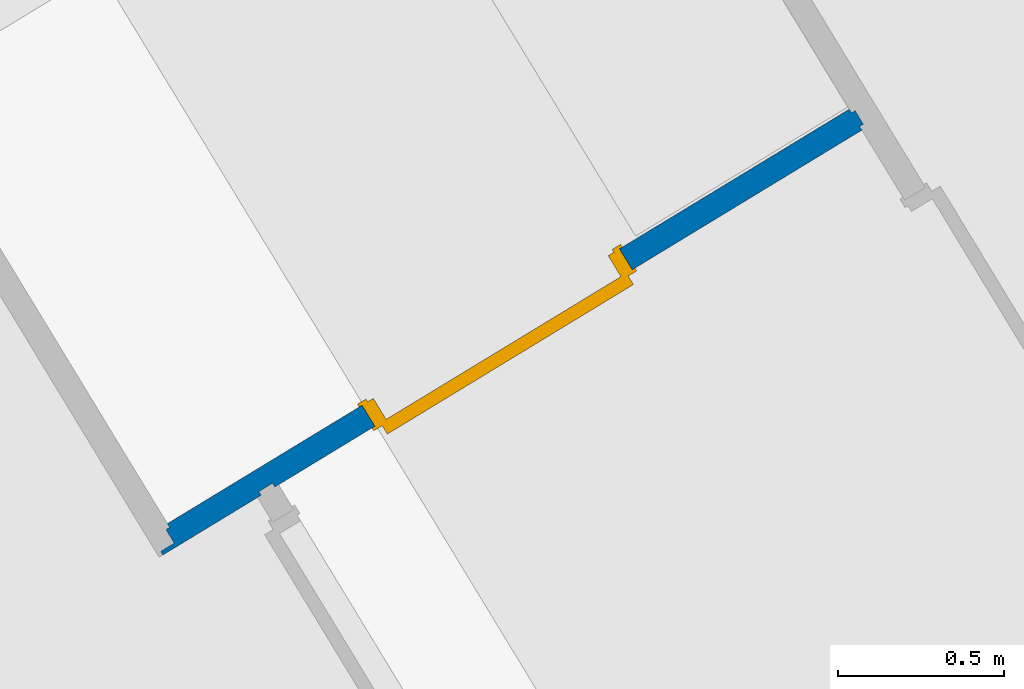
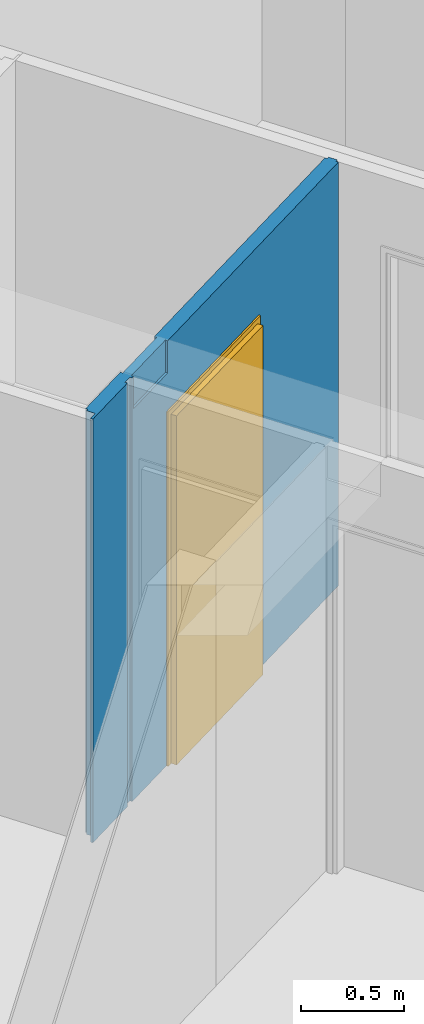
# One storey, part 36 of 90: 1 door, 1 wall, 1 opening.
"""IFC2X3 building model written with IfcOpenShell, lengths in metres."""

from ifc_helpers import new_model, entity, si_unit, converted_unit, derived_unit, money_unit, direction, frame, origin_with_axes, place, context, subcontext, project, spatial, faceted_brep, source, transform, mapped, material, material_list, type_object, element, fill, save


model = new_model("IFC2X3")

# Units and contexts
model_context = context("Model", 3, precision=1e-05, world=origin_with_axes(), true_north=direction((0.0, 1.0)))
body_context = subcontext(model_context, "Body", "Model", "MODEL_VIEW")
ifc_project = project(units=[si_unit("LENGTHUNIT", "METRE"), si_unit("AREAUNIT", "SQUARE_METRE"), si_unit("VOLUMEUNIT", "CUBIC_METRE"), converted_unit("PLANEANGLEUNIT", "DEGREE", entity("IfcPlaneAngleMeasure", 0.0174532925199), si_unit("PLANEANGLEUNIT", "RADIAN"), dimensions=[0, 0, 0, 0, 0, 0, 0]), si_unit("SOLIDANGLEUNIT", "STERADIAN"), money_unit("EUR"), converted_unit("TIMEUNIT", "Year", entity("IfcTimeMeasure", 31556926.0), si_unit("TIMEUNIT", "SECOND"), dimensions=[0, 0, 1, 0, 0, 0, 0]), si_unit("MASSUNIT", "GRAM", prefix="KILO"), si_unit("THERMODYNAMICTEMPERATUREUNIT", "DEGREE_CELSIUS"), si_unit("LUMINOUSINTENSITYUNIT", "LUMEN"), si_unit("ENERGYUNIT", "JOULE", prefix="MEGA"), derived_unit("THERMALCONDUCTANCEUNIT", [(si_unit("POWERUNIT", "WATT"), 1), (si_unit("LENGTHUNIT", "METRE"), -1), (si_unit("THERMODYNAMICTEMPERATUREUNIT", "KELVIN"), -1)]), derived_unit("SPECIFICHEATCAPACITYUNIT", [(si_unit("ENERGYUNIT", "JOULE"), 1), (si_unit("MASSUNIT", "GRAM", prefix="KILO"), -1), (si_unit("THERMODYNAMICTEMPERATUREUNIT", "KELVIN"), -1)]), derived_unit("MASSDENSITYUNIT", [(si_unit("MASSUNIT", "GRAM", prefix="KILO"), 1), (si_unit("VOLUMEUNIT", "CUBIC_METRE"), -1)])], contexts=[model_context])

# Site, building, storey
site_placement = place(None, origin_with_axes())
site = spatial("IfcSite", under=ifc_project, at=site_placement, Name="Site", CompositionType="ELEMENT")
building_placement = place(site_placement, origin_with_axes())
building = spatial("IfcBuilding", under=site, at=building_placement, Name="Bâtiment", CompositionType="ELEMENT")
storey_placement = place(building_placement, frame((0.0, 0.0, 2.72), z_axis=(0.0, 0.0, 1.0), x_axis=(1.0, 0.0, 0.0)))
storey = spatial("IfcBuildingStorey", under=building, at=storey_placement, Name="R+1", CompositionType="ELEMENT", Elevation=2.72)

# Wall, opening, door
ifc_material_1 = material(Name="Finition int - Plaque de plâtre")
ifc_material_2 = material(Name="Isolation - Laine de roche")
ifc_material_list = material_list([ifc_material_1, ifc_material_2, ifc_material_1])
wall_type = type_object("IfcWallType", Name="3 - Cloison 72mm Placostil 74", PredefinedType="USERDEFINED")
wall_placement = place(storey_placement, frame((-1.36651903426, 22.0117415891, 0.0), z_axis=(0.0, 0.0, 1.0), x_axis=(-0.854539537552, -0.519386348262, 0.0)))
wall = element("IfcWall", 1, at=wall_placement, inside=storey, type_object=wall_type, material=ifc_material_list, Name="Cloison Placostil 72/48", ObjectType="PARTITIONING", context=body_context, shape_type="Brep", body=[
    faceted_brep([(1.72212721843, 0.0, 0.0), (1.72212721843, -5.97531695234e-08, 2.08), (0.812127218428, -5.97531695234e-08, 2.08), (0.812127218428, 0.0, 0.0), (0.0, 0.0, 0.0), (0.0, 0.0, 2.5), (1.71805603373, 0.0, 2.5), (1.71805603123, 0.0, 2.31), (2.06242912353, -5.97531695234e-08, 2.31), (2.06242912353, -5.97531695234e-08, 2.5), (2.07542929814, 0.0, 2.5), (2.07542929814, 0.0, 0.0), (1.72212721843, -0.013, 0.0), (1.72212721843, -0.013, 2.08), (0.812127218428, -0.013, 2.08), (0.812127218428, -0.013, 0.0), (0.0, -0.013, 0.0), (0.0, -0.013, 2.5), (1.7180560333, -0.013, 2.5), (1.71805603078, -0.013, 2.31), (2.0620916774, -0.013, 2.31), (2.0620916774, -0.013, 2.5), (2.07542929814, -0.013, 2.5), (2.07542929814, -0.013, 0.0)], [[[0, 1, 2, 3, 4, 5, 6, 7, 8, 9, 10, 11]], [[1, 0, 12, 13]], [[2, 1, 13, 14]], [[3, 2, 14, 15]], [[3, 15, 16, 4]], [[17, 5, 4, 16]], [[6, 5, 17, 18]], [[6, 18, 19, 7]], [[7, 19, 20, 8]], [[9, 8, 20, 21]], [[21, 22, 10, 9]], [[22, 23, 11, 10]], [[12, 0, 11, 23]], [[13, 12, 23, 22, 21, 20, 19, 18, 17, 16, 15, 14]]]),
    faceted_brep([(2.47140261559, -0.013, 2.5), (2.4714026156, 0.0, 2.5), (2.12342929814, 0.0, 2.5), (2.12342929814, -0.013, 2.5), (2.47140261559, -0.013, 0.0), (2.4714026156, 0.0, 0.0), (2.12342929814, 0.0, 0.0), (2.12342929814, -0.013, 0.0)], [[[0, 1, 2, 3]], [[1, 0, 4, 5]], [[1, 5, 6, 2]], [[7, 3, 2, 6]], [[4, 0, 3, 7]], [[5, 4, 7, 6]]]),
    faceted_brep([(1.72212721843, -0.013, 0.0), (1.72212721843, -0.013, 2.08), (0.812127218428, -0.013, 2.08), (0.812127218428, -0.013, 0.0), (-0.0130000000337, -0.013, 0.0), (-0.0130000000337, -0.013, 2.5), (2.42340261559, -0.013, 2.5), (2.42340261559, -0.013, 0.0), (1.72212721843, -0.061, 0.0), (1.72212721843, -0.061, 2.08), (0.812127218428, -0.061, 2.08), (0.812127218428, -0.061, 0.0), (-0.0130000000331, -0.061, 0.0), (-0.0130000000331, -0.061, 2.5), (2.42340261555, -0.061, 2.5), (2.42340261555, -0.061, 0.0)], [[[0, 1, 2, 3, 4, 5, 6, 7]], [[1, 0, 8, 9]], [[2, 1, 9, 10]], [[3, 2, 10, 11]], [[3, 11, 12, 4]], [[13, 5, 4, 12]], [[6, 5, 13, 14]], [[14, 15, 7, 6]], [[8, 0, 7, 15]], [[9, 8, 15, 14, 13, 12, 11, 10]]]),
    faceted_brep([(1.72212721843, -0.061, 0.0), (1.72212721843, -0.061, 2.08), (0.812127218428, -0.061, 2.08), (0.812127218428, -0.061, 0.0), (0.0, -0.061, 0.0), (0.0, -0.061, 2.5), (1.71805603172, -0.061, 2.5), (1.71805602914, -0.061, 2.31), (2.06084571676, -0.061, 2.31), (2.06084571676, -0.061, 2.5), (2.41040261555, -0.061, 2.5), (2.41040261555, -0.061, 0.0), (1.72212721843, -0.074, 0.0), (1.72212721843, -0.074, 2.08), (0.812127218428, -0.074, 2.08), (0.812127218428, -0.074, 0.0), (0.0, -0.074, 0.0), (0.0, -0.074, 2.5), (1.71805603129, -0.074, 2.5), (1.71805602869, -0.074, 2.31), (2.0605082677, -0.0740000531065, 2.31), (2.0605082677, -0.0740000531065, 2.5), (2.41040261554, -0.074, 2.5), (2.41040261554, -0.074, 0.0)], [[[0, 1, 2, 3, 4, 5, 6, 7, 8, 9, 10, 11]], [[1, 0, 12, 13]], [[2, 1, 13, 14]], [[3, 2, 14, 15]], [[3, 15, 16, 4]], [[17, 5, 4, 16]], [[6, 5, 17, 18]], [[6, 18, 19, 7]], [[7, 19, 20, 8]], [[9, 8, 20, 21]], [[21, 22, 10, 9]], [[22, 23, 11, 10]], [[12, 0, 11, 23]], [[13, 12, 23, 22, 21, 20, 19, 18, 17, 16, 15, 14]]]),
])
opening_placement = place(wall_placement, frame((1.26712721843, 0.0, 0.0), z_axis=(0.0, 0.0, 1.0), x_axis=(1.0, 0.0, 0.0)))
opening = element("IfcOpeningElement", 2, at=opening_placement, cuts=wall, Name="Porte 83x204 bois alvéolaire", context=body_context, shape_type="Brep", body=[
    faceted_brep([(-0.455, 0.074, 0.0), (0.455, 0.074, 0.0), (0.455, -0.074, 0.0), (-0.455, -0.074, 0.0), (-0.455, 0.074, 2.08), (0.455, 0.074, 2.08), (0.455, -0.074, 2.08), (-0.455, -0.074, 2.08)], [[[0, 1, 2, 3]], [[0, 4, 5, 1]], [[1, 5, 6, 2]], [[3, 2, 6, 7]], [[4, 0, 3, 7]], [[5, 4, 7, 6]]]),
])
door_style = type_object("IfcDoorStyle", Name="Porte int générique 2019", ConstructionType="NOTDEFINED", OperationType="SINGLE_SWING_LEFT", ParameterTakesPrecedence=False, Sizeable=False)
shared_shape = source(origin_with_axes(), body_context, "Body", "Brep", [
    faceted_brep([(-0.455, 0.0, 0.0), (-0.455, 0.0, 2.08), (0.455, 0.0, 2.08), (0.455, 0.0, 0.0), (0.415, 0.0, 0.0), (0.415, 0.0, 2.04), (-0.415, 0.0, 2.04), (-0.415, 0.0, 0.0), (-0.455, -0.074, 0.0), (-0.455, -0.074, 2.08), (0.455, -0.074, 2.08), (0.455, -0.074, 0.0), (0.415, -0.074, 0.0), (0.415, -0.074, 2.04), (-0.415, -0.074, 2.04), (-0.415, -0.074, 0.0)], [[[0, 1, 2, 3, 4, 5, 6, 7]], [[8, 9, 1, 0]], [[9, 10, 2, 1]], [[10, 11, 3, 2]], [[3, 11, 12, 4]], [[5, 4, 12, 13]], [[6, 5, 13, 14]], [[7, 6, 14, 15]], [[0, 7, 15, 8]], [[15, 14, 13, 12, 11, 10, 9, 8]]]),
    faceted_brep([(-0.465, 0.0, 0.0), (-0.465, 0.0, 2.09), (-0.465, 0.01, 2.09), (-0.465, 0.01, 0.0), (-0.435, 0.0, 0.0), (-0.435, 0.0, 2.06), (0.435, 0.0, 2.06), (0.435, 0.0, 0.0), (0.465, 0.0, 0.0), (0.465, 0.0, 2.09), (0.465, 0.01, 2.09), (0.465, 0.01, 0.0), (0.435, 0.01, 0.0), (0.435, 0.01, 2.06), (-0.435, 0.01, 2.06), (-0.435, 0.01, 0.0)], [[[0, 1, 2, 3]], [[4, 5, 6, 7, 8, 9, 1, 0]], [[1, 9, 10, 2]], [[3, 2, 10, 11, 12, 13, 14, 15]], [[0, 3, 15, 4]], [[15, 14, 5, 4]], [[14, 13, 6, 5]], [[13, 12, 7, 6]], [[8, 7, 12, 11]], [[9, 8, 11, 10]]]),
    faceted_brep([(-0.465, -0.084, 0.0), (-0.465, -0.084, 2.09), (-0.465, -0.074, 2.09), (-0.465, -0.074, 0.0), (-0.435, -0.084, 0.0), (-0.435, -0.084, 2.06), (0.435, -0.084, 2.06), (0.435, -0.084, 0.0), (0.465, -0.084, 0.0), (0.465, -0.084, 2.09), (0.465, -0.074, 2.09), (0.465, -0.074, 0.0), (0.435, -0.074, 0.0), (0.435, -0.074, 2.06), (-0.435, -0.074, 2.06), (-0.435, -0.074, 0.0)], [[[0, 1, 2, 3]], [[4, 5, 6, 7, 8, 9, 1, 0]], [[1, 9, 10, 2]], [[3, 2, 10, 11, 12, 13, 14, 15]], [[0, 3, 15, 4]], [[15, 14, 5, 4]], [[14, 13, 6, 5]], [[13, 12, 7, 6]], [[8, 7, 12, 11]], [[9, 8, 11, 10]]]),
    faceted_brep([(-0.435, 0.04, 0.0), (0.435, 0.04, 0.0), (0.435, 0.0, 0.0), (-0.435, 0.0, 0.0), (-0.435, 0.04, 2.06), (0.435, 0.04, 2.06), (0.435, 0.0, 2.06), (-0.435, 0.0, 2.06)], [[[0, 1, 2, 3]], [[0, 4, 5, 1]], [[1, 5, 6, 2]], [[3, 2, 6, 7]], [[4, 0, 3, 7]], [[5, 4, 7, 6]]]),
])
door_placement = place(opening_placement, frame((-0.415, 0.0, 0.0), z_axis=(0.0, 0.0, 1.0), x_axis=(1.0, 0.0, 0.0)))
door = element("IfcDoor", 3, at=door_placement, inside=storey, type_object=door_style, Name="Porte 83x204 bois alvéolaire", ObjectType="DOOR", OverallHeight=2.04, OverallWidth=0.83, context=body_context, shape_type="MappedRepresentation", body=[
    mapped(shared_shape, transform((0.415, 0.0, 0.0))),
])
fill(opening, door)

save(model, "model.ifc")
